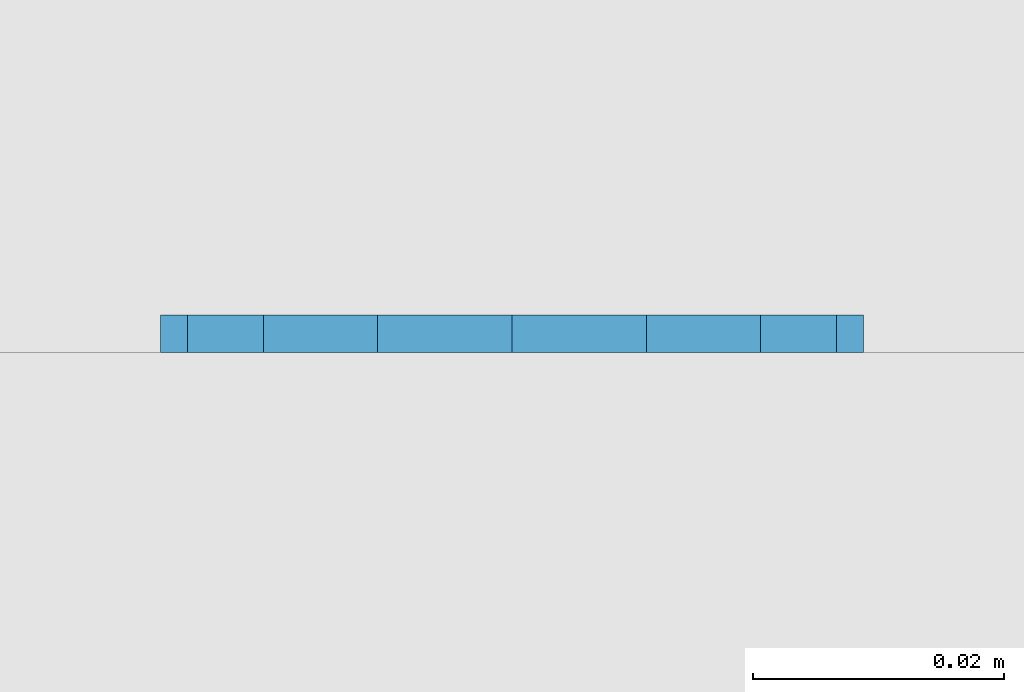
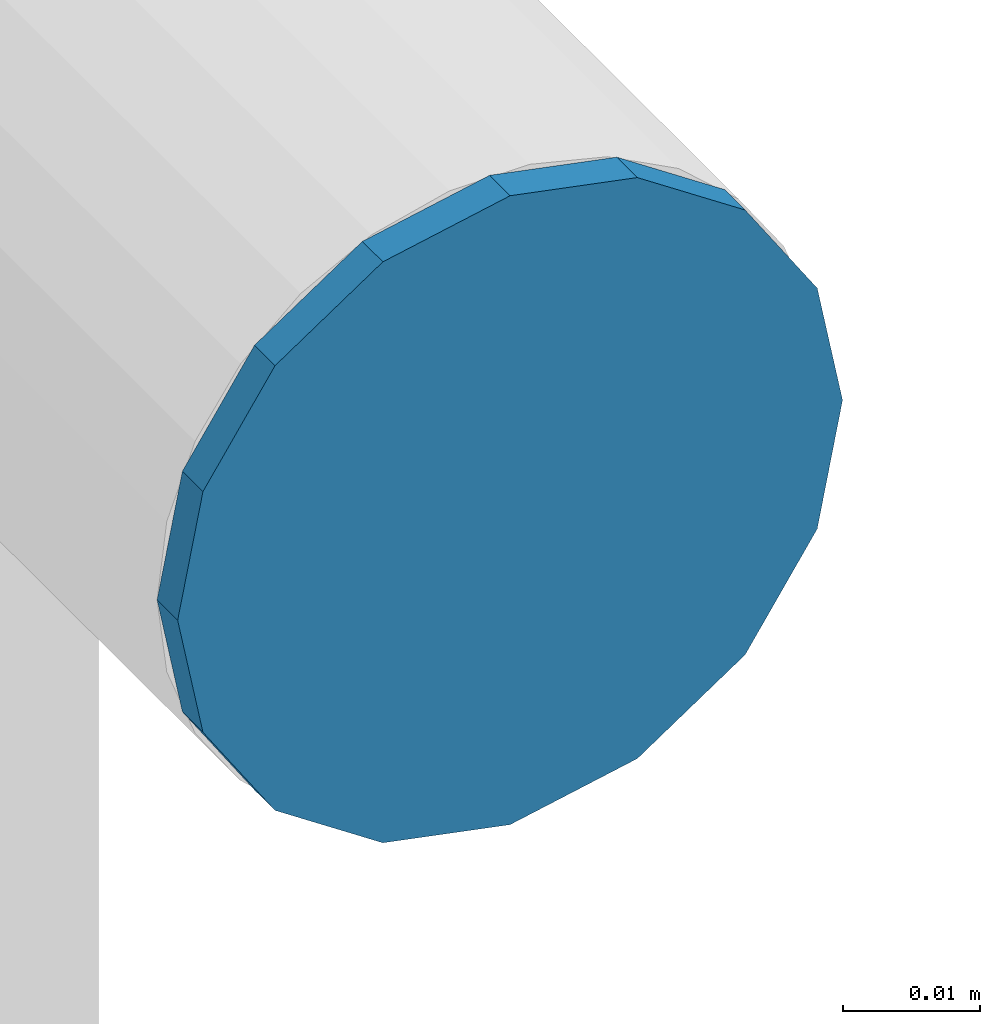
# One storey, part 51 of 230: 1 beam.
"""IFC4X3_ADD2 building model written with IfcOpenShell, lengths in millimetres."""

from ifc_helpers import new_model, si_unit, direction, frame, origin_with_axes, place, context, subcontext, project, spatial, indexed_curve, outline, extrude, material, element, save


model = new_model("IFC4X3_ADD2")

# Units and contexts
model_context = context("Model", 3, precision=1e-05, world=origin_with_axes(), true_north=direction((0.0, 1.0)))
body_context = subcontext(model_context, "Body", "Model", "MODEL_VIEW")
ifc_project = project(units=[si_unit("LENGTHUNIT", "METRE", prefix="MILLI"), si_unit("AREAUNIT", "SQUARE_METRE"), si_unit("VOLUMEUNIT", "CUBIC_METRE"), si_unit("PLANEANGLEUNIT", "RADIAN"), si_unit("TIMEUNIT", "SECOND"), si_unit("MASSUNIT", "GRAM")], contexts=[model_context])

# Site, building, storey
site_placement = place(None, origin_with_axes())
site = spatial("IfcSite", under=ifc_project, at=site_placement, Name="Site", CompositionType="ELEMENT")
building_placement = place(site_placement, origin_with_axes())
building = spatial("IfcBuilding", under=site, at=building_placement, Name="IFC Building Story")
storey_placement = place(building_placement, origin_with_axes())
storey = spatial("IfcBuildingStorey", under=building, at=storey_placement, Name="ETAGE 00 (0)", Elevation=0.0)

# Beam
ifc_material = material(Name="STEEL/Accessory 22919")
beam_placement = place(storey_placement, frame((48311.18863623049, 12128.0006109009, 1040.0), z_axis=(0.0, -1.0, 0.0), x_axis=(-0.1950903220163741, 0.0, 0.9807852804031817)))
element("IfcBeam", 1, at=beam_placement, inside=storey, material=ifc_material, Name="TA4", ObjectType="D56", context=body_context, shape_type="SweptSolid", body=[
    extrude(outline(indexed_curve([(23.28114914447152, 15.55596652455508), (27.46198785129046, 5.462529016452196), (27.46198785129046, -5.462529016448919), (23.28114914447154, -15.55596652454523), (15.55596652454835, -23.28114914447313), (5.462529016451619, -27.46198785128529), (-5.462529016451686, -27.46198785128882), (-15.55596652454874, -23.28114914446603), (-23.2811491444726, -15.55596652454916), (-27.46198785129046, -5.462529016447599), (-27.46198785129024, 5.462529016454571), (-23.28114914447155, 15.55596652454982), (-15.55596652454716, 23.28114914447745), (-5.462529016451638, 27.46198785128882), (5.462529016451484, 27.46198785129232), (15.55596652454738, 23.28114914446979), (23.28114914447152, 15.55596652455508)])), origin_with_axes(), (0.0, 0.0, 1.0), 3.000000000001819),
])

save(model, "model.ifc")
